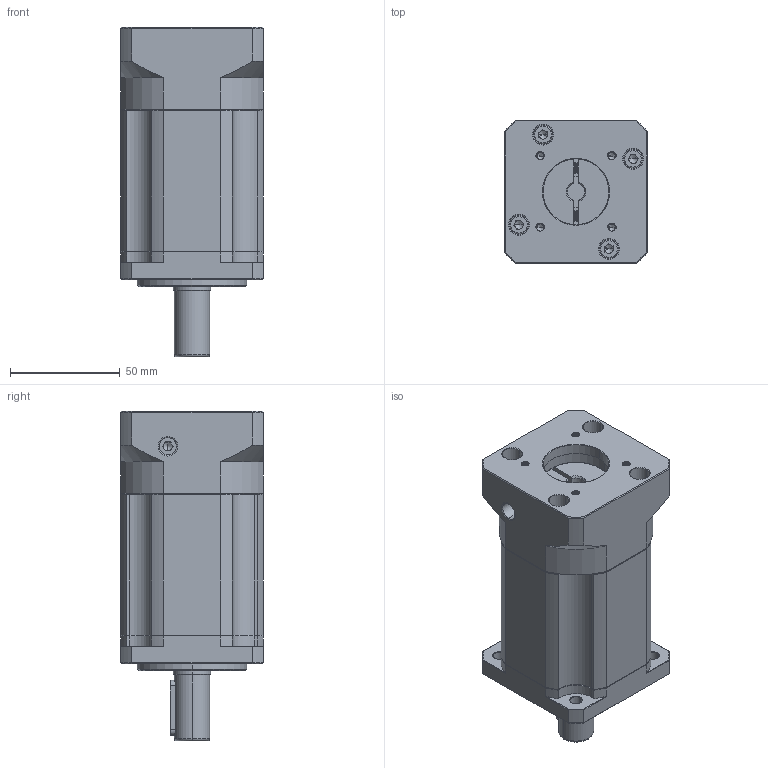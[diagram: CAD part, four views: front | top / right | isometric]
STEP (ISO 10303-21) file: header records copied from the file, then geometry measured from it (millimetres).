
FILE_DESCRIPTION (( 'STEP AP214' ), '1' );
FILE_NAME ('ZB60-D16-L3-8-30-46-M4.STEP', '2022-04-16T15:31:19', ( '' ), ( 'Microsoft' ), 'SwSTEP 2.0', 'SolidWorks 2016', '' );
FILE_SCHEMA (( 'AUTOMOTIVE_DESIGN' ));
Length unit declared in the file: millimetre
Products named in the file (1): ZB60-D16-L3-8-30-46-M4
Bounding box: 65 x 65 x 150 mm (x, y, z)
Volume: 398493.1 mm3; surface area: 63043.4 mm2
Topology: 6 solids, 6 shells, 1876 faces, 4981 edges, 3188 vertices
Faces by surface type: plane 879, cylinder 381, bspline 299, cone 283, torus 34
Entity records: 98911 total; most frequent: CARTESIAN_POINT 34084, ORIENTED_EDGE 9902, DIRECTION 8107, EDGE_CURVE 4951, VERTEX_POINT 3188, VECTOR 3013, LINE 3013, AXIS2_PLACEMENT_3D 2547
